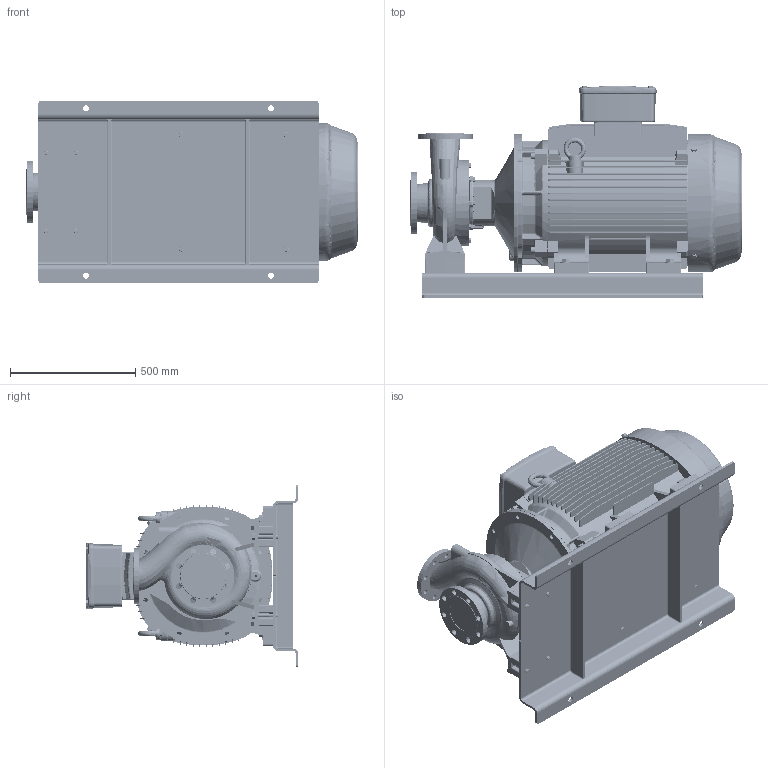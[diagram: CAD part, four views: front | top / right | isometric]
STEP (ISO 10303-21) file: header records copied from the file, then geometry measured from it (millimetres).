
FILE_DESCRIPTION (( 'STEP AP214' ), '1' );
FILE_NAME ('GSD2 100-250_90 & 110_(280SM)_W21_BP.STEP', '2024-08-02T00:11:48', ( '' ), ( '' ), 'SwSTEP 2.0', 'SolidWorks 2019', '' );
FILE_SCHEMA (( 'AUTOMOTIVE_DESIGN' ));
Length unit declared in the file: millimetre
Products named in the file (10): CGS11-5321_2_3_4_5_CGS11-5322; Parametric bolt_SFT-A377B; CGS11-5321_2_3_4_5_CGS11-5324; 100-250-280S_M_______; Parametric Flat Washer_M20; Parametric bolt_SFT-A411B; Parametric Flat Washer_M16; GSD2  100-250_90 & 110_(280SM)_W21_BP; 280S_M2P IE3_W21T_B35; N9S4 GSDA-947 F1-1832979-00
Assembly tree (23 placements, depth 2):
  GSD2  100-250_90 & 110_(280SM)_W21_BP
    100-250-280S_M_______
    280S_M2P IE3_W21T_B35
    N9S4 GSDA-947 F1-1832979-00
    CGS11-5321_2_3_4_5_CGS11-5322  x2
    CGS11-5321_2_3_4_5_CGS11-5324  x2
    Parametric bolt_SFT-A377B  x4
    Parametric bolt_SFT-A411B  x4
    Parametric Flat Washer_M20  x4
    Parametric Flat Washer_M16  x4
Bounding box: 1328 x 849.6 x 730 mm (x, y, z)
Volume: 241399929.5 mm3; surface area: 8445850.7 mm2
Topology: 24 solids, 31 shells, 4028 faces, 10622 edges, 6776 vertices
Faces by surface type: plane 1646, cylinder 1321, cone 511, bspline 268, torus 252, sphere 30
Entity records: 163957 total; most frequent: CARTESIAN_POINT 77935, ORIENTED_EDGE 18650, DIRECTION 17301, EDGE_CURVE 9325, AXIS2_PLACEMENT_3D 6397, VERTEX_POINT 5945, VECTOR 4507, LINE 4507
